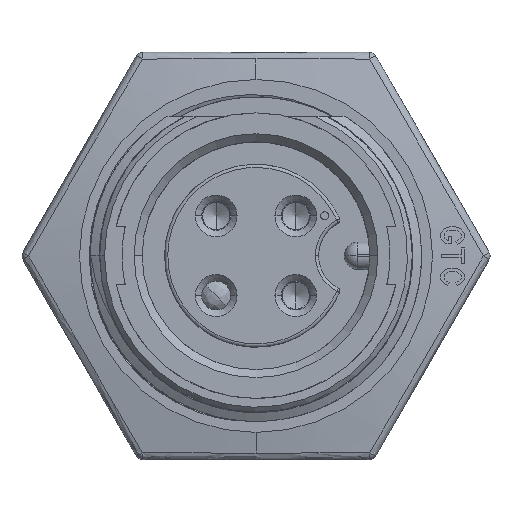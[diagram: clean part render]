
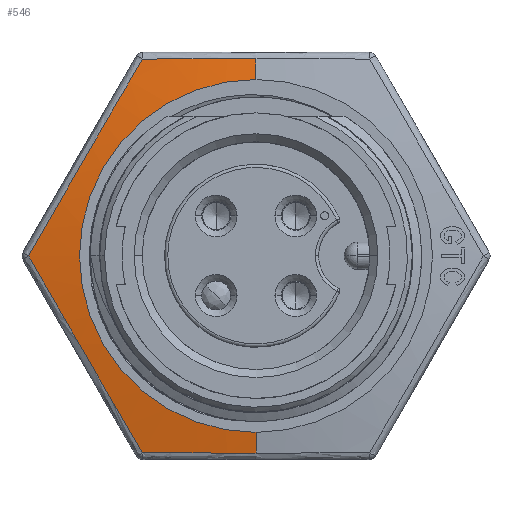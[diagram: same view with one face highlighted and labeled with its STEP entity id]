
A CAD part, top view. The second image highlights one B-rep face of the part: STEP entity #546.
In plain terms, the highlighted conical face has half-angle 80 degrees and reference radius 11 mm.
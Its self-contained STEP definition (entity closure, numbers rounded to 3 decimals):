
#72 = CARTESIAN_POINT ( 'NONE',  ( -14.506, 23.552, 4.94 ) ) ;
#546 = ADVANCED_FACE ( 'NONE', ( #14735 ), #18756, .T. ) ;
#1681 = VERTEX_POINT ( 'NONE', #14450 ) ;
#2660 = CARTESIAN_POINT ( 'NONE',  ( -14.506, -0.998, 4.94 ) ) ;
#3753 = CARTESIAN_POINT ( 'NONE',  ( -7.419, -1.01, 5.273 ) ) ;
#3758 = B_SPLINE_CURVE_WITH_KNOTS ( 'NONE', 3,
 ( #17469, #36338, #43425, #3753 ),
 .UNSPECIFIED., .F., .F.,
 ( 4, 4 ),
 ( 0., 0.007 ),
 .UNSPECIFIED. ) ;
#4098 = AXIS2_PLACEMENT_3D ( 'NONE', #27823, #40896, #16969 ) ;
#4137 = DIRECTION ( 'NONE',  ( 0., -0.985, -0.174 ) ) ;
#5276 = CARTESIAN_POINT ( 'NONE',  ( -19.244, 7.185, 5.273 ) ) ;
#6017 = VERTEX_POINT ( 'NONE', #38932 ) ;
#6276 = VERTEX_POINT ( 'NONE', #36086 ) ;
#6310 = CARTESIAN_POINT ( 'NONE',  ( -7.419, 22.277, 5.5 ) ) ;
#6394 = VECTOR ( 'NONE', #43499, 1000. ) ;
#6962 = DIRECTION ( 'NONE',  ( 0., 0., -1. ) ) ;
#7916 = EDGE_CURVE ( 'NONE', #20489, #31711, #30446, .T. ) ;
#8815 = CARTESIAN_POINT ( 'NONE',  ( -20.42, 9.233, 5.147 ) ) ;
#9075 = EDGE_CURVE ( 'NONE', #31711, #1681, #33833, .T. ) ;
#9352 = VERTEX_POINT ( 'NONE', #6310 ) ;
#11780 = CARTESIAN_POINT ( 'NONE',  ( -14.506, 23.552, 4.94 ) ) ;
#14398 = ORIENTED_EDGE ( 'NONE', *, *, #28553, .T. ) ;
#14450 = CARTESIAN_POINT ( 'NONE',  ( -21.593, 11.277, 4.94 ) ) ;
#14499 = CARTESIAN_POINT ( 'NONE',  ( -7.419, 11.277, 5.5 ) ) ;
#14735 = FACE_OUTER_BOUND ( 'NONE', #37670, .T. ) ;
#16969 = DIRECTION ( 'NONE',  ( 0., 1., 0. ) ) ;
#17469 = CARTESIAN_POINT ( 'NONE',  ( -14.506, -0.998, 4.94 ) ) ;
#18756 = CONICAL_SURFACE ( 'NONE', #38337, 11., 1.396 ) ;
#19014 = ORIENTED_EDGE ( 'NONE', *, *, #7916, .T. ) ;
#20489 = VERTEX_POINT ( 'NONE', #41832 ) ;
#20680 = CIRCLE ( 'NONE', #4098, 11. ) ;
#21323 = CARTESIAN_POINT ( 'NONE',  ( -7.419, 23.564, 5.273 ) ) ;
#21625 = CARTESIAN_POINT ( 'NONE',  ( -7.419, 0.277, 5.5 ) ) ;
#23506 = ORIENTED_EDGE ( 'NONE', *, *, #25393, .T. ) ;
#25309 = LINE ( 'NONE', #39725, #6394 ) ;
#25393 = EDGE_CURVE ( 'NONE', #6017, #6276, #3758, .T. ) ;
#26872 = CARTESIAN_POINT ( 'NONE',  ( -16.875, 19.472, 5.273 ) ) ;
#27823 = CARTESIAN_POINT ( 'NONE',  ( -7.419, 11.277, 5.5 ) ) ;
#28553 = EDGE_CURVE ( 'NONE', #1681, #6017, #38813, .T. ) ;
#29064 = VECTOR ( 'NONE', #4137, 1000. ) ;
#29077 = EDGE_CURVE ( 'NONE', #9352, #20489, #25309, .T. ) ;
#29348 = CARTESIAN_POINT ( 'NONE',  ( -12.149, 23.559, 5.147 ) ) ;
#30368 = VERTEX_POINT ( 'NONE', #38646 ) ;
#30426 = CARTESIAN_POINT ( 'NONE',  ( -20.42, 13.322, 5.147 ) ) ;
#30446 = B_SPLINE_CURVE_WITH_KNOTS ( 'NONE', 3,
 ( #21323, #35734, #29348, #72 ),
 .UNSPECIFIED., .F., .F.,
 ( 4, 4 ),
 ( 0.007, 0.014 ),
 .UNSPECIFIED. ) ;
#30671 = EDGE_CURVE ( 'NONE', #30368, #6276, #32955, .T. ) ;
#31121 = CARTESIAN_POINT ( 'NONE',  ( -15.69, 21.514, 5.147 ) ) ;
#31711 = VERTEX_POINT ( 'NONE', #38357 ) ;
#32472 = DIRECTION ( 'NONE',  ( 0., 1., 0. ) ) ;
#32896 = EDGE_CURVE ( 'NONE', #30368, #9352, #20680, .T. ) ;
#32955 = LINE ( 'NONE', #21625, #29064 ) ;
#33833 = B_SPLINE_CURVE_WITH_KNOTS ( 'NONE', 3,
 ( #11780, #31121, #26872, #37976, #30426, #34205 ),
 .UNSPECIFIED., .F., .F.,
 ( 4, 2, 4 ),
 ( 0., 0.007, 0.014 ),
 .UNSPECIFIED. ) ;
#34205 = CARTESIAN_POINT ( 'NONE',  ( -21.593, 11.277, 4.94 ) ) ;
#35247 = CARTESIAN_POINT ( 'NONE',  ( -16.877, 3.086, 5.273 ) ) ;
#35629 = ORIENTED_EDGE ( 'NONE', *, *, #32896, .T. ) ;
#35734 = CARTESIAN_POINT ( 'NONE',  ( -9.785, 23.564, 5.273 ) ) ;
#36086 = CARTESIAN_POINT ( 'NONE',  ( -7.419, -1.01, 5.273 ) ) ;
#36338 = CARTESIAN_POINT ( 'NONE',  ( -12.148, -1.004, 5.147 ) ) ;
#37491 = ORIENTED_EDGE ( 'NONE', *, *, #30671, .F. ) ;
#37670 = EDGE_LOOP ( 'NONE', ( #37491, #35629, #41226, #19014, #43982, #14398, #23506 ) ) ;
#37976 = CARTESIAN_POINT ( 'NONE',  ( -19.242, 15.373, 5.273 ) ) ;
#38337 = AXIS2_PLACEMENT_3D ( 'NONE', #14499, #6962, #32472 ) ;
#38357 = CARTESIAN_POINT ( 'NONE',  ( -14.506, 23.552, 4.94 ) ) ;
#38646 = CARTESIAN_POINT ( 'NONE',  ( -7.419, 0.277, 5.5 ) ) ;
#38813 = B_SPLINE_CURVE_WITH_KNOTS ( 'NONE', 3,
 ( #41171, #8815, #5276, #35247, #42568, #2660 ),
 .UNSPECIFIED., .F., .F.,
 ( 4, 2, 4 ),
 ( 0., 0.007, 0.014 ),
 .UNSPECIFIED. ) ;
#38932 = CARTESIAN_POINT ( 'NONE',  ( -14.506, -0.998, 4.94 ) ) ;
#39725 = CARTESIAN_POINT ( 'NONE',  ( -7.419, 22.277, 5.5 ) ) ;
#40896 = DIRECTION ( 'NONE',  ( 0., 0., -1. ) ) ;
#41171 = CARTESIAN_POINT ( 'NONE',  ( -21.593, 11.277, 4.94 ) ) ;
#41226 = ORIENTED_EDGE ( 'NONE', *, *, #29077, .T. ) ;
#41832 = CARTESIAN_POINT ( 'NONE',  ( -7.419, 23.564, 5.273 ) ) ;
#42568 = CARTESIAN_POINT ( 'NONE',  ( -15.69, 1.041, 5.147 ) ) ;
#43425 = CARTESIAN_POINT ( 'NONE',  ( -9.787, -1.01, 5.273 ) ) ;
#43499 = DIRECTION ( 'NONE',  ( 0., 0.985, -0.174 ) ) ;
#43982 = ORIENTED_EDGE ( 'NONE', *, *, #9075, .T. ) ;
